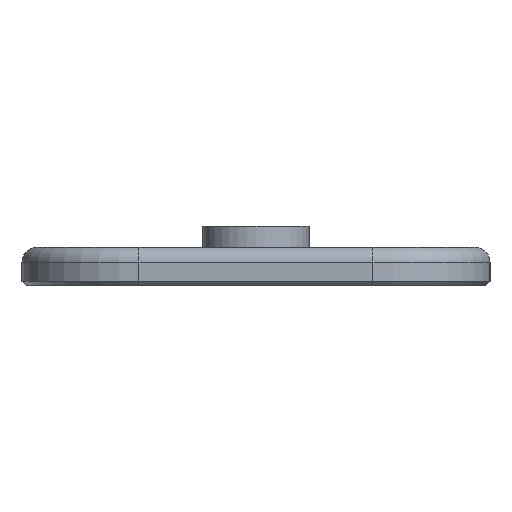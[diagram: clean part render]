
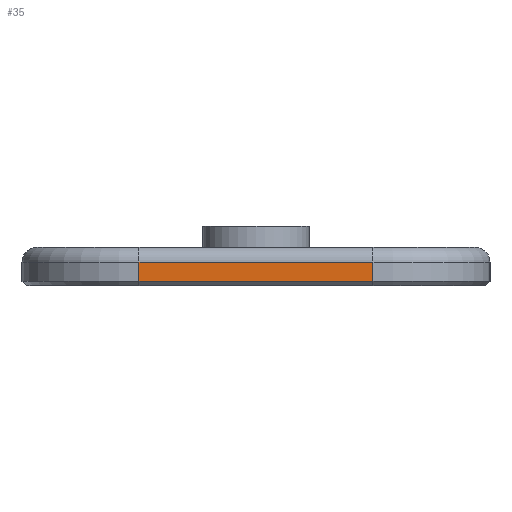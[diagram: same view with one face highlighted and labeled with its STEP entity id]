
A CAD part, left-side view. The second image highlights one B-rep face of the part: STEP entity #35.
In plain terms, the highlighted planar face has unit normal (-1, 0, 0).
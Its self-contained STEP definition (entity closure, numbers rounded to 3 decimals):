
#35 = ADVANCED_FACE('',(#36),#50,.T.);
#36 = FACE_BOUND('',#37,.T.);
#37 = EDGE_LOOP('',(#38,#73,#101,#129));
#38 = ORIENTED_EDGE('',*,*,#39,.T.);
#39 = EDGE_CURVE('',#40,#42,#44,.T.);
#40 = VERTEX_POINT('',#41);
#41 = CARTESIAN_POINT('',(-97.,-5.5,0.2));
#42 = VERTEX_POINT('',#43);
#43 = CARTESIAN_POINT('',(-97.,-5.5,1.1));
#44 = SURFACE_CURVE('',#45,(#49,#61),.PCURVE_S1.);
#45 = LINE('',#46,#47);
#46 = CARTESIAN_POINT('',(-97.,-5.5,0.));
#47 = VECTOR('',#48,1.);
#48 = DIRECTION('',(0.,0.,1.));
#49 = PCURVE('',#50,#55);
#50 = PLANE('',#51);
#51 = AXIS2_PLACEMENT_3D('',#52,#53,#54);
#52 = CARTESIAN_POINT('',(-97.,-5.5,0.));
#53 = DIRECTION('',(-1.,0.,0.));
#54 = DIRECTION('',(0.,1.,0.));
#55 = DEFINITIONAL_REPRESENTATION('',(#56),#60);
#56 = LINE('',#57,#58);
#57 = CARTESIAN_POINT('',(0.,0.));
#58 = VECTOR('',#59,1.);
#59 = DIRECTION('',(0.,-1.));
#60 = ( GEOMETRIC_REPRESENTATION_CONTEXT(2) 
PARAMETRIC_REPRESENTATION_CONTEXT() REPRESENTATION_CONTEXT('2D SPACE',''
  ) );
#61 = PCURVE('',#62,#67);
#62 = CYLINDRICAL_SURFACE('',#63,5.5);
#63 = AXIS2_PLACEMENT_3D('',#64,#65,#66);
#64 = CARTESIAN_POINT('',(-91.5,-5.5,0.));
#65 = DIRECTION('',(-0.,-0.,-1.));
#66 = DIRECTION('',(1.,0.,0.));
#67 = DEFINITIONAL_REPRESENTATION('',(#68),#72);
#68 = LINE('',#69,#70);
#69 = CARTESIAN_POINT('',(-3.142,0.));
#70 = VECTOR('',#71,1.);
#71 = DIRECTION('',(-0.,-1.));
#72 = ( GEOMETRIC_REPRESENTATION_CONTEXT(2) 
PARAMETRIC_REPRESENTATION_CONTEXT() REPRESENTATION_CONTEXT('2D SPACE',''
  ) );
#73 = ORIENTED_EDGE('',*,*,#74,.T.);
#74 = EDGE_CURVE('',#42,#75,#77,.T.);
#75 = VERTEX_POINT('',#76);
#76 = CARTESIAN_POINT('',(-97.,5.5,1.1));
#77 = SURFACE_CURVE('',#78,(#82,#89),.PCURVE_S1.);
#78 = LINE('',#79,#80);
#79 = CARTESIAN_POINT('',(-97.,-5.5,1.1));
#80 = VECTOR('',#81,1.);
#81 = DIRECTION('',(0.,1.,0.));
#82 = PCURVE('',#50,#83);
#83 = DEFINITIONAL_REPRESENTATION('',(#84),#88);
#84 = LINE('',#85,#86);
#85 = CARTESIAN_POINT('',(0.,-1.1));
#86 = VECTOR('',#87,1.);
#87 = DIRECTION('',(1.,0.));
#88 = ( GEOMETRIC_REPRESENTATION_CONTEXT(2) 
PARAMETRIC_REPRESENTATION_CONTEXT() REPRESENTATION_CONTEXT('2D SPACE',''
  ) );
#89 = PCURVE('',#90,#95);
#90 = CYLINDRICAL_SURFACE('',#91,0.7);
#91 = AXIS2_PLACEMENT_3D('',#92,#93,#94);
#92 = CARTESIAN_POINT('',(-96.3,-5.5,1.1));
#93 = DIRECTION('',(0.,1.,0.));
#94 = DIRECTION('',(-1.,0.,0.));
#95 = DEFINITIONAL_REPRESENTATION('',(#96),#100);
#96 = LINE('',#97,#98);
#97 = CARTESIAN_POINT('',(0.,0.));
#98 = VECTOR('',#99,1.);
#99 = DIRECTION('',(0.,1.));
#100 = ( GEOMETRIC_REPRESENTATION_CONTEXT(2) 
PARAMETRIC_REPRESENTATION_CONTEXT() REPRESENTATION_CONTEXT('2D SPACE',''
  ) );
#101 = ORIENTED_EDGE('',*,*,#102,.F.);
#102 = EDGE_CURVE('',#103,#75,#105,.T.);
#103 = VERTEX_POINT('',#104);
#104 = CARTESIAN_POINT('',(-97.,5.5,0.2));
#105 = SURFACE_CURVE('',#106,(#110,#117),.PCURVE_S1.);
#106 = LINE('',#107,#108);
#107 = CARTESIAN_POINT('',(-97.,5.5,0.));
#108 = VECTOR('',#109,1.);
#109 = DIRECTION('',(0.,0.,1.));
#110 = PCURVE('',#50,#111);
#111 = DEFINITIONAL_REPRESENTATION('',(#112),#116);
#112 = LINE('',#113,#114);
#113 = CARTESIAN_POINT('',(11.,0.));
#114 = VECTOR('',#115,1.);
#115 = DIRECTION('',(0.,-1.));
#116 = ( GEOMETRIC_REPRESENTATION_CONTEXT(2) 
PARAMETRIC_REPRESENTATION_CONTEXT() REPRESENTATION_CONTEXT('2D SPACE',''
  ) );
#117 = PCURVE('',#118,#123);
#118 = CYLINDRICAL_SURFACE('',#119,5.5);
#119 = AXIS2_PLACEMENT_3D('',#120,#121,#122);
#120 = CARTESIAN_POINT('',(-91.5,5.5,0.));
#121 = DIRECTION('',(-0.,-0.,-1.));
#122 = DIRECTION('',(1.,0.,0.));
#123 = DEFINITIONAL_REPRESENTATION('',(#124),#128);
#124 = LINE('',#125,#126);
#125 = CARTESIAN_POINT('',(-3.142,0.));
#126 = VECTOR('',#127,1.);
#127 = DIRECTION('',(-0.,-1.));
#128 = ( GEOMETRIC_REPRESENTATION_CONTEXT(2) 
PARAMETRIC_REPRESENTATION_CONTEXT() REPRESENTATION_CONTEXT('2D SPACE',''
  ) );
#129 = ORIENTED_EDGE('',*,*,#130,.F.);
#130 = EDGE_CURVE('',#40,#103,#131,.T.);
#131 = SURFACE_CURVE('',#132,(#136,#143),.PCURVE_S1.);
#132 = LINE('',#133,#134);
#133 = CARTESIAN_POINT('',(-97.,-5.5,0.2));
#134 = VECTOR('',#135,1.);
#135 = DIRECTION('',(0.,1.,0.));
#136 = PCURVE('',#50,#137);
#137 = DEFINITIONAL_REPRESENTATION('',(#138),#142);
#138 = LINE('',#139,#140);
#139 = CARTESIAN_POINT('',(0.,-0.2));
#140 = VECTOR('',#141,1.);
#141 = DIRECTION('',(1.,0.));
#142 = ( GEOMETRIC_REPRESENTATION_CONTEXT(2) 
PARAMETRIC_REPRESENTATION_CONTEXT() REPRESENTATION_CONTEXT('2D SPACE',''
  ) );
#143 = PCURVE('',#144,#149);
#144 = PLANE('',#145);
#145 = AXIS2_PLACEMENT_3D('',#146,#147,#148);
#146 = CARTESIAN_POINT('',(-96.9,-5.5,0.1));
#147 = DIRECTION('',(0.707,0.,0.707)
  );
#148 = DIRECTION('',(0.,-1.,0.));
#149 = DEFINITIONAL_REPRESENTATION('',(#150),#154);
#150 = LINE('',#151,#152);
#151 = CARTESIAN_POINT('',(-0.,-0.141));
#152 = VECTOR('',#153,1.);
#153 = DIRECTION('',(-1.,0.));
#154 = ( GEOMETRIC_REPRESENTATION_CONTEXT(2) 
PARAMETRIC_REPRESENTATION_CONTEXT() REPRESENTATION_CONTEXT('2D SPACE',''
  ) );
